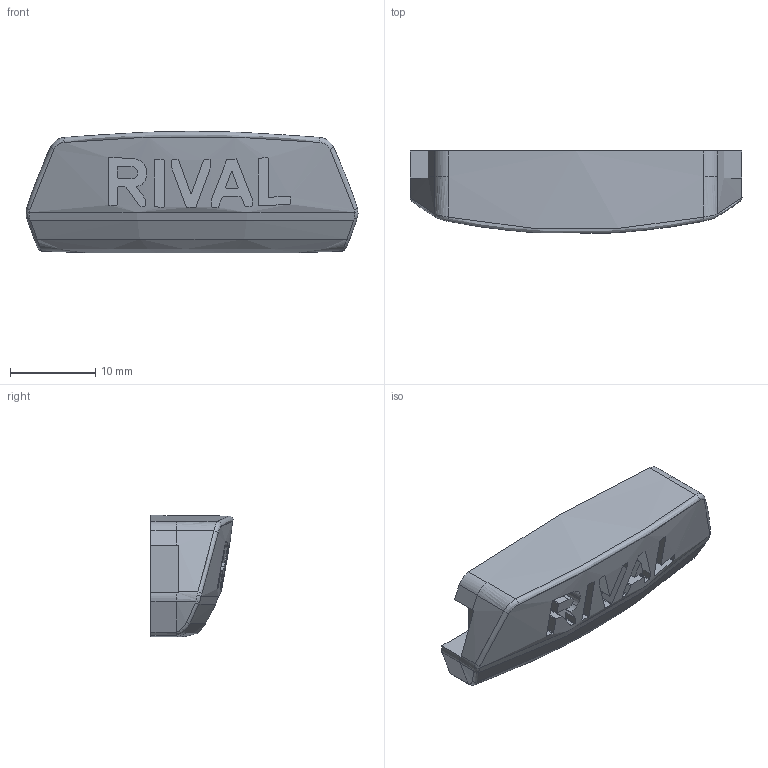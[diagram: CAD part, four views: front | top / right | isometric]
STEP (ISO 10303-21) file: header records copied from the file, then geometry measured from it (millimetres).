
FILE_DESCRIPTION(/* description */ (''),/* implementation_level */ '2;1');
FILE_NAME(/* name */ 'R500_NamePlate_March21.2016',/* time_stamp */ '2016-03-21T11:29:01+01:00',/* author */ (''),/* organization */ (''),/* preprocessor_version */ 'ST-DEVELOPER v15',/* originating_system */ '',/* authorisation */ '');
FILE_SCHEMA (('AUTOMOTIVE_DESIGN'));
Length unit declared in the file: millimetre
Products named in the file (2): Document; MP-322-RU-LOGO
Assembly tree (1 placements, depth 2):
  Document
    MP-322-RU-LOGO
Bounding box: 38.86 x 9.63 x 14.19 mm (x, y, z)
Volume: 3194.6 mm3; surface area: 2093 mm2
Topology: 1 solids, 1 shells, 159 faces, 435 edges, 286 vertices
Faces by surface type: bspline 94, plane 65
Entity records: 7365 total; most frequent: CARTESIAN_POINT 4595, ORIENTED_EDGE 870, EDGE_CURVE 435, B_SPLINE_CURVE_WITH_KNOTS 378, VERTEX_POINT 286, EDGE_LOOP 167, ADVANCED_FACE 159, FACE_OUTER_BOUND 159
